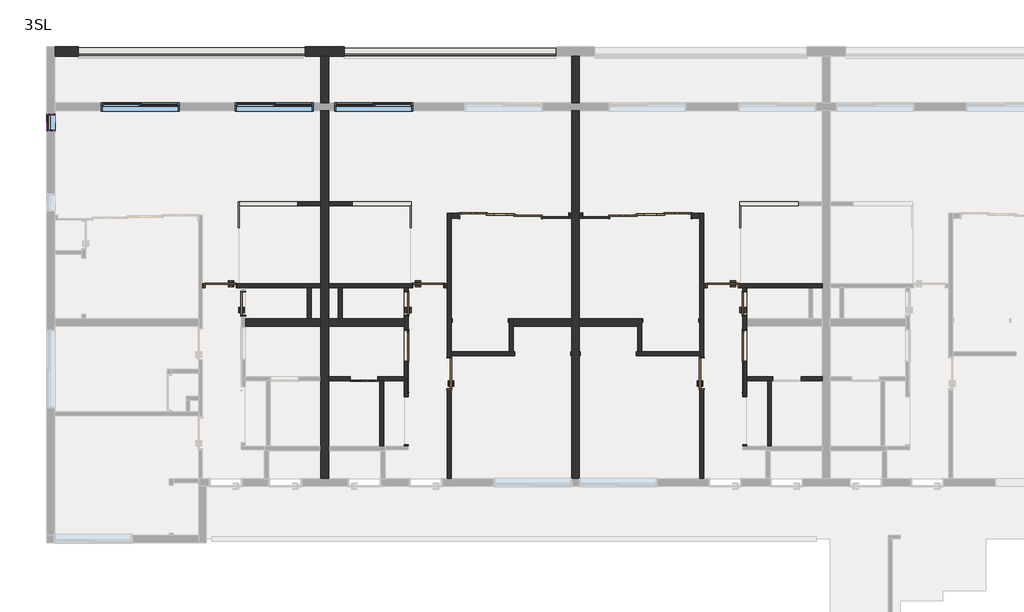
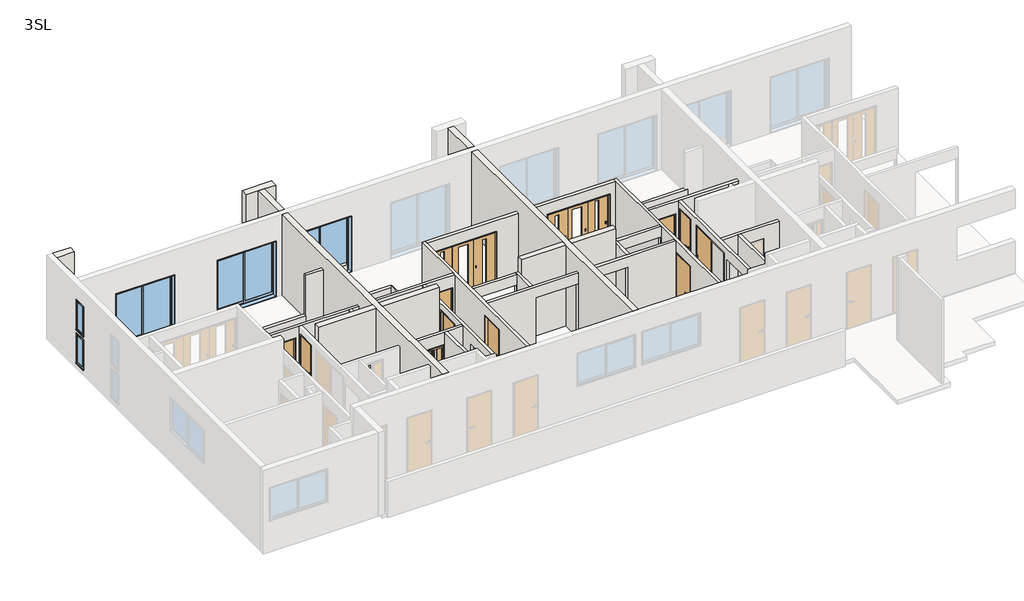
# One storey, part 2 of 3: 37 walls, 13 doors, 5 windows, 2 plates.
"""IFC4 building model written with IfcOpenShell, lengths in millimetres."""

from ifc_helpers import new_model, si_unit, frame, origin, place, context, project, spatial, polyline, outline, extrude, faceted_brep, transform, mapped, element, save
from components import door_a3db7c72, door_c7dcdbed, door_8f2de950, door_3b96e66a, door_aabc7979, door_3f60c47c, door_12b42705, door_31a51f76, door_d265da5f, system_panel_37aab131, system_panel_5692cc67, window_4c3e1407, window_a2a98c4b, window_ec430ee0, w0450_h1100_93ba837a

model = new_model("IFC4")

# Units and contexts
model_context = context("Model", 3, world=origin())
ifc_project = project(units=[si_unit("LENGTHUNIT", "METRE", prefix="MILLI")], contexts=[model_context])

# Site, building, storey
site = spatial("IfcSite", under=ifc_project)
building = spatial("IfcBuilding", under=site)
storey = spatial("IfcBuildingStorey", under=building, Name="3SL", Elevation=7000.0)

# Doors
placement = place(None, origin())
door_shape = door_a3db7c72(model_context)
element("IfcDoor", 1, ObjectType="木製_片開き_フラッシュ : WD-2 w600h2000", at=placement, inside=storey, context=model_context, shape_type="MappedRepresentation", body=[
    mapped(door_shape, transform((-5645.6194095, 3696.254513, 7210.0), x_axis=(0.0, 1.0, 0.0), y_axis=(-1.0, 0.0, 0.0), z_axis=(0.0, 0.0, 1.0))),
])
element("IfcDoor", 2, ObjectType="木製_片開き_フラッシュ : WD-2 w600h2000", at=placement, inside=storey, context=model_context, shape_type="MappedRepresentation", body=[
    mapped(door_shape, transform((7254.3805905, 3696.254513, 7210.0), x_axis=(0.0, 1.0, 0.0), y_axis=(-1.0, 0.0, 0.0), z_axis=(0.0, 0.0, 1.0))),
])
door_2_shape = door_c7dcdbed(model_context)
element("IfcDoor", 3, ObjectType="木製_片開き_フラッシュ : WD-2 w600h2000", at=placement, inside=storey, context=model_context, shape_type="MappedRepresentation", body=[
    mapped(door_2_shape, transform((-1445.6194095, 3696.254513, 7210.0), x_axis=(0.0, 1.0, 0.0), y_axis=(-1.0, 0.0, 0.0), z_axis=(0.0, 0.0, 1.0))),
])
door_3_shape = door_8f2de950(model_context)
element("IfcDoor", 4, ObjectType="木製_片開き_フラッシュ : WD-1\u3000w800h2000", at=placement, inside=storey, context=model_context, shape_type="MappedRepresentation", body=[
    mapped(door_3_shape, transform((-6225.6194095, 4160.2598658, 7060.0), x_axis=(-1.0, 0.0, 0.0), y_axis=(0.0, -1.0, 0.0), z_axis=(0.0, 0.0, 1.0))),
])
element("IfcDoor", 5, ObjectType="木製_片開き_フラッシュ : WD-1\u3000w800h2000", at=placement, inside=storey, context=model_context, shape_type="MappedRepresentation", body=[
    mapped(door_3_shape, transform((-345.6194095, 1900.2598658, 7060.0), x_axis=(0.0, 1.0, 0.0), y_axis=(-1.0, 0.0, 0.0), z_axis=(0.0, 0.0, 1.0))),
])
element("IfcDoor", 6, ObjectType="木製_片開き_フラッシュ : WD-1\u3000w800h2000", at=placement, inside=storey, context=model_context, shape_type="MappedRepresentation", body=[
    mapped(door_3_shape, transform((6694.3805905, 4160.2598658, 7000.0), x_axis=(-1.0, 0.0, 0.0), y_axis=(0.0, -1.0, 0.0), z_axis=(0.0, 0.0, 1.0))),
])
door_4_shape = door_3b96e66a(model_context)
element("IfcDoor", 7, ObjectType="木製_片開き_フラッシュ : WD-1\u3000w800h2000", at=placement, inside=storey, context=model_context, shape_type="MappedRepresentation", body=[
    mapped(door_4_shape, transform((-885.6194095, 4160.2598658, 7000.0), x_axis=(1.0, 0.0, 0.0), y_axis=(0.0, 1.0, 0.0), z_axis=(0.0, 0.0, 1.0))),
])
element("IfcDoor", 8, ObjectType="木製_片開き_フラッシュ : WD-1\u3000w800h2000", at=placement, inside=storey, context=model_context, shape_type="MappedRepresentation", body=[
    mapped(door_4_shape, transform((6154.3805905, 1900.2598658, 7060.0), x_axis=(0.0, 1.0, 0.0), y_axis=(-1.0, 0.0, 0.0), z_axis=(0.0, 0.0, 1.0))),
])
door_5_shape = door_aabc7979(model_context)
element("IfcDoor", 9, ObjectType="木製_折戸2枚_フラッシュ(UB) : UB-1 w600h2000", at=placement, inside=storey, context=model_context, shape_type="MappedRepresentation", body=[
    mapped(door_5_shape, transform((-2535.6194095, 1760.2598658, 7000.0), x_axis=(-1.0, 0.0, 0.0), y_axis=(0.0, -1.0, 0.0), z_axis=(0.0, 0.0, 1.0))),
])
door_6_shape = door_3f60c47c(model_context)
element("IfcDoor", 10, ObjectType="木製_片引き_フラッシュ : WD-4 w800h2000", at=placement, inside=storey, context=model_context, shape_type="MappedRepresentation", body=[
    mapped(door_6_shape, transform((-1445.6194095, 2610.719009, 7210.0), x_axis=(0.0, -1.0, 0.0), y_axis=(1.0, 0.0, 0.0), z_axis=(0.0, 0.0, 1.0))),
])
door_7_shape = door_12b42705(model_context)
element("IfcDoor", 11, ObjectType="木製_片引き_フラッシュ : WD-4 w800h2000", at=placement, inside=storey, context=model_context, shape_type="MappedRepresentation", body=[
    mapped(door_7_shape, transform((7254.3805905, 2610.719009, 7210.0), x_axis=(0.0, -1.0, 0.0), y_axis=(1.0, 0.0, 0.0), z_axis=(0.0, 0.0, 1.0))),
])
door_8_shape = door_31a51f76(model_context)
element("IfcDoor", 12, ObjectType="木製_片引き3枚_フラッシュ2 : WD-9 w2100h2000", at=placement, inside=storey, context=model_context, shape_type="MappedRepresentation", body=[
    mapped(door_8_shape, transform((979.9160944, 5960.2598658, 7060.0), x_axis=(1.0, 0.0, 0.0), y_axis=(0.0, 1.0, 0.0), z_axis=(0.0, 0.0, 1.0))),
])
door_9_shape = door_d265da5f(model_context)
element("IfcDoor", 13, ObjectType="木製_片引き3枚_フラッシュ2 : WD-9 w2100h2000", at=placement, inside=storey, context=model_context, shape_type="MappedRepresentation", body=[
    mapped(door_9_shape, transform((4828.8450865, 5960.2598658, 7060.0), x_axis=(-1.0, 0.0, 0.0), y_axis=(0.0, -1.0, 0.0), z_axis=(0.0, 0.0, 1.0))),
])

# Plates
system_panel_shape = system_panel_37aab131(model_context)
element("IfcPlate", 14, ObjectType="システム パネル : System Panel", at=placement, inside=storey, context=model_context, shape_type="MappedRepresentation", body=[
    mapped(system_panel_shape, transform((-320.6194095, 10097.7598658, 7000.0), x_axis=(-1.0, 0.0, 0.0), y_axis=(0.0, -1.0, 0.0), z_axis=(0.0, 0.0, 1.0))),
])
system_panel_2_shape = system_panel_5692cc67(model_context)
element("IfcPlate", 15, ObjectType="システム パネル : System Panel", at=placement, inside=storey, context=model_context, shape_type="MappedRepresentation", body=[
    mapped(system_panel_2_shape, transform((-6970.6194095, 10097.7598658, 7000.0), x_axis=(1.0, 0.0, 0.0), y_axis=(0.0, 1.0, 0.0), z_axis=(0.0, 0.0, 1.0))),
])

# Walls
element("IfcWall", 16, ObjectType="(F)30", at=placement, inside=storey, context=model_context, shape_type="Brep", body=[
    faceted_brep([(-5775.1194095, 6315.254513, 7113.4303939), (-5775.1194095, 5645.254513, 7113.4303939), (-5775.1194095, 5645.254513, 8060.0), (-5775.1194095, 6315.254513, 8060.0), (-5745.1194095, 6315.254513, 7113.4303939), (-5745.1194095, 6315.254513, 8060.0), (-5745.1194095, 6215.254513, 8060.0), (-5745.1194095, 5645.254513, 8060.0), (-5745.1194095, 5645.254513, 7113.4303939)], [[[0, 1, 2, 3]], [[4, 5, 6, 7, 8]], [[1, 0, 4, 8]], [[2, 1, 8, 7]], [[3, 2, 7, 6, 5]], [[0, 3, 5, 4]]]),
])
element("IfcWall", 17, ObjectType="(F)30", at=placement, inside=storey, context=model_context, shape_type="Brep", body=[
    faceted_brep([(-1346.1194095, 6215.254513, 7060.0), (-1346.1194095, 5645.254513, 7060.0), (-1346.1194095, 5645.254513, 8120.0), (-1346.1194095, 6215.254513, 8120.0), (-1316.1194095, 6215.254513, 7060.0), (-1316.1194095, 6215.254513, 8060.0), (-1316.1194095, 6215.254513, 8120.0), (-1316.1194095, 5645.254513, 8120.0), (-1316.1194095, 5645.254513, 7060.0)], [[[0, 1, 2, 3]], [[4, 5, 6, 7, 8]], [[1, 0, 4, 8]], [[2, 1, 8, 7]], [[3, 2, 7, 6]], [[0, 3, 6, 5, 4]]]),
])
element("IfcWall", 18, ObjectType="(F)30", at=placement, inside=storey, context=model_context, shape_type="Brep", body=[
    faceted_brep([(7124.8805905, 6215.254513, 7060.0), (7124.8805905, 5645.254513, 7060.0), (7124.8805905, 5645.254513, 8120.0), (7124.8805905, 6215.254513, 8120.0), (7124.8805905, 6215.254513, 8060.0), (7154.8805905, 6215.254513, 7060.0), (7154.8805905, 6215.254513, 8120.0), (7154.8805905, 5645.254513, 8120.0), (7154.8805905, 5645.254513, 7060.0)], [[[0, 1, 2, 3, 4]], [[5, 6, 7, 8]], [[1, 0, 5, 8]], [[2, 1, 8, 7]], [[3, 2, 7, 6]], [[0, 4, 3, 6, 5]]]),
])
element("IfcWall", 19, ObjectType="(L)100", at=placement, inside=storey, context=model_context, shape_type="Brep", body=[
    faceted_brep([(-4245.6194095, 6315.254513, 7000.0), (-5745.1194095, 6315.254513, 7000.0), (-5745.1194095, 6315.254513, 7113.4303939), (-5745.1194095, 6315.254513, 8060.0), (-4245.6194095, 6315.254513, 8060.0), (-4245.6194095, 6315.254513, 7100.0), (-4245.6194095, 6215.254513, 7000.0), (-4245.6194095, 6215.254513, 7100.0), (-4245.6194095, 6215.254513, 8060.0), (-5745.1194095, 6215.254513, 8060.0), (-5745.1194095, 6215.254513, 7000.0)], [[[0, 1, 2, 3, 4, 5]], [[6, 7, 8, 9, 10]], [[1, 0, 6, 10]], [[4, 3, 9, 8]], [[0, 5, 4, 8, 7, 6]], [[3, 2, 1, 10, 9]]]),
])
element("IfcWall", 20, ObjectType="(L)100", at=placement, inside=storey, context=model_context, shape_type="SweptSolid", body=[
    extrude(outline(polyline([(-3995.6194095, 3310.2598658), (-3995.6194095, 4110.2598658), (-3895.6194095, 4110.2598658), (-3895.6194095, 3310.2598658), (-3995.6194095, 3310.2598658)])), frame((0.0, 0.0, 7000.0), z_axis=(0.0, 0.0, 1.0), x_axis=(1.0, 0.0, 0.0)), (0.0, 0.0, 1.0), 2460.0),
])
element("IfcWall", 21, ObjectType="(L)100", at=placement, inside=storey, context=model_context, shape_type="Brep", body=[
    faceted_brep([(-3645.6194095, 4210.2598658, 7060.0), (-5805.6194095, 4210.2598658, 7060.0), (-5805.6194095, 4210.2598658, 9080.0), (-6645.6194095, 4210.2598658, 9080.0), (-6645.6194095, 4210.2598658, 7060.0), (-6695.6194095, 4210.2598658, 7060.0), (-6695.6194095, 4210.2598658, 9460.0), (-3645.6194095, 4210.2598658, 9460.0), (-5805.6194095, 4110.2598658, 9080.0), (-5805.6194095, 4110.2598658, 7060.0), (-5695.6194095, 4110.2598658, 7060.0), (-5595.6194095, 4110.2598658, 7060.0), (-3645.6194095, 4110.2598658, 7060.0), (-3645.6194095, 4110.2598658, 9460.0), (-3895.6194095, 4110.2598658, 9460.0), (-3995.6194095, 4110.2598658, 9460.0), (-5595.6194095, 4110.2598658, 9460.0), (-5695.6194095, 4110.2598658, 9460.0), (-6695.6194095, 4110.2598658, 9460.0), (-6695.6194095, 4110.2598658, 7060.0), (-6645.6194095, 4110.2598658, 7060.0), (-6645.6194095, 4110.2598658, 9080.0)], [[[0, 1, 2, 3, 4, 5, 6, 7]], [[8, 9, 10, 11, 12, 13, 14, 15, 16, 17, 18, 19, 20, 21]], [[12, 11, 10, 9, 1, 0]], [[20, 19, 5, 4]], [[7, 6, 18, 17, 16, 15, 14, 13]], [[0, 7, 13, 12]], [[6, 5, 19, 18]], [[4, 3, 21, 20]], [[2, 1, 9, 8]], [[3, 2, 8, 21]]]),
])
element("IfcWall", 22, ObjectType="(L)100", at=placement, inside=storey, context=model_context, shape_type="Brep", body=[
    faceted_brep([(-395.6194095, 1480.2598658, 9080.0), (-395.6194095, 1480.2598658, 7060.0), (-395.6194095, -809.7401342, 7060.0), (-395.6194095, -809.7401342, 9460.0), (-395.6194095, 4110.2598658, 9460.0), (-395.6194095, 4210.2598658, 9460.0), (-395.6194095, 6022.7598658, 9460.0), (-395.6194095, 6022.7598658, 7060.0), (-395.6194095, 2320.2598658, 7060.0), (-395.6194095, 2320.2598658, 9080.0), (-295.6194095, -809.7401342, 7060.0), (-295.6194095, 1480.2598658, 7060.0), (-295.6194095, 1480.2598658, 9080.0), (-295.6194095, 2320.2598658, 9080.0), (-295.6194095, 2320.2598658, 7060.0), (-295.6194095, 2360.2598658, 7060.0), (-295.6194095, 2460.2598658, 7060.0), (-295.6194095, 5897.7598658, 7060.0), (-295.6194095, 6022.7598658, 7060.0), (-295.6194095, 6022.7598658, 9460.0), (-295.6194095, 5897.7598658, 9460.0), (-295.6194095, 3310.2598658, 9460.0), (-295.6194095, 3210.2598658, 9460.0), (-295.6194095, 2460.2598658, 9460.0), (-295.6194095, 2360.2598658, 9460.0), (-295.6194095, -809.7401342, 9460.0)], [[[0, 1, 2, 3, 4, 5, 6, 7, 8, 9]], [[10, 11, 12, 13, 14, 15, 16, 17, 18, 19, 20, 21, 22, 23, 24, 25]], [[2, 1, 11, 10]], [[8, 7, 18, 17, 16, 15, 14]], [[6, 5, 4, 3, 25, 24, 23, 22, 21, 20, 19]], [[7, 6, 19, 18]], [[3, 2, 10, 25]], [[14, 13, 9, 8]], [[12, 11, 1, 0]], [[13, 12, 0, 9]]]),
])
element("IfcWall", 23, ObjectType="(L)100", at=placement, inside=storey, context=model_context, shape_type="Brep", body=[
    faceted_brep([(2804.3805905, 2460.2598658, 7060.0), (2784.3805905, 2460.2598658, 7060.0), (2784.3805905, 2460.2598658, 9080.0), (1344.3805905, 2460.2598658, 9080.0), (1344.3805905, 2460.2598658, 7060.0), (-295.6194095, 2460.2598658, 7060.0), (-295.6194095, 2460.2598658, 9460.0), (1204.3805905, 2460.2598658, 9460.0), (1304.3805905, 2460.2598658, 9460.0), (2804.3805905, 2460.2598658, 9460.0), (2784.3805905, 2360.2598658, 9080.0), (2784.3805905, 2360.2598658, 7060.0), (2804.3805905, 2360.2598658, 7060.0), (2804.3805905, 2360.2598658, 9460.0), (-295.6194095, 2360.2598658, 9460.0), (-295.6194095, 2360.2598658, 7060.0), (1344.3805905, 2360.2598658, 7060.0), (1344.3805905, 2360.2598658, 9080.0)], [[[0, 1, 2, 3, 4, 5, 6, 7, 8, 9]], [[10, 11, 12, 13, 14, 15, 16, 17]], [[12, 11, 1, 0]], [[16, 15, 5, 4]], [[9, 8, 7, 6, 14, 13]], [[0, 9, 13, 12]], [[6, 5, 15, 14]], [[4, 3, 17, 16]], [[2, 1, 11, 10]], [[3, 2, 10, 17]]]),
])
element("IfcWall", 24, ObjectType="(L)100", at=placement, inside=storey, context=model_context, shape_type="Brep", body=[
    faceted_brep([(1204.3805905, 3310.2598658, 7000.0), (1204.3805905, 3210.2598658, 7000.0), (1204.3805905, 2460.2598658, 7000.0), (1204.3805905, 2460.2598658, 9460.0), (1204.3805905, 3210.2598658, 9460.0), (1204.3805905, 3310.2598658, 9460.0), (1304.3805905, 3310.2598658, 7000.0), (1304.3805905, 3310.2598658, 9460.0), (1304.3805905, 2460.2598658, 9460.0), (1304.3805905, 2460.2598658, 7000.0), (1304.3805905, 3110.2598658, 7000.0)], [[[0, 1, 2, 3, 4, 5]], [[6, 7, 8, 9, 10]], [[2, 1, 0, 6, 10, 9]], [[5, 4, 3, 8, 7]], [[0, 5, 7, 6]], [[3, 2, 9, 8]]]),
])
element("IfcWall", 25, ObjectType="(L)100", at=placement, inside=storey, context=model_context, shape_type="Brep", body=[
    faceted_brep([(-1395.6194095, 4110.2598658, 9460.0), (-1395.6194095, 30.2598658, 9460.0), (-1395.6194095, 30.2598658, 7060.0), (-1395.6194095, 60.2598658, 7060.0), (-1395.6194095, 60.2598658, 9080.0), (-1395.6194095, 1300.2598658, 9080.0), (-1395.6194095, 1300.2598658, 7060.0), (-1395.6194095, 4110.2598658, 7060.0), (-1395.6194095, 1396.254513, 9230.0), (-1395.6194095, 3036.254513, 9230.0), (-1395.6194095, 3036.254513, 7210.0), (-1395.6194095, 1396.254513, 7210.0), (-1395.6194095, 4016.254513, 9230.0), (-1395.6194095, 4016.254513, 7210.0), (-1395.6194095, 3376.254513, 7210.0), (-1395.6194095, 3376.254513, 9230.0), (-1495.6194095, 30.2598658, 9460.0), (-1495.6194095, 1710.2598658, 9460.0), (-1495.6194095, 1810.2598658, 9460.0), (-1495.6194095, 4110.2598658, 9460.0), (-1495.6194095, 4110.2598658, 7060.0), (-1495.6194095, 1300.2598658, 7060.0), (-1495.6194095, 1300.2598658, 9080.0), (-1495.6194095, 60.2598658, 9080.0), (-1495.6194095, 60.2598658, 7060.0), (-1495.6194095, 30.2598658, 7060.0), (-1495.6194095, 3036.254513, 9230.0), (-1495.6194095, 2196.254513, 9230.0), (-1495.6194095, 2196.254513, 7210.0), (-1495.6194095, 3036.254513, 7210.0), (-1495.6194095, 4016.254513, 7210.0), (-1495.6194095, 4016.254513, 9230.0), (-1495.6194095, 3376.254513, 9230.0), (-1495.6194095, 3376.254513, 7210.0), (-1425.6194095, 1396.254513, 9230.0), (-1425.6194095, 2196.254513, 9230.0), (-1425.6194095, 2196.254513, 7210.0), (-1425.6194095, 1396.254513, 7210.0)], [[[0, 1, 2, 3, 4, 5, 6, 7], [8, 9, 10, 11], [12, 13, 14, 15]], [[16, 17, 18, 19, 20, 21, 22, 23, 24, 25], [26, 27, 28, 29], [30, 31, 32, 33]], [[20, 7, 6, 21]], [[2, 25, 24, 3]], [[1, 0, 19, 18, 17, 16]], [[0, 7, 20, 19]], [[2, 1, 16, 25]], [[5, 22, 21, 6]], [[23, 4, 3, 24]], [[22, 5, 4, 23]], [[34, 35, 27, 26, 9, 8]], [[9, 26, 29, 10]], [[36, 37, 11, 10, 29, 28]], [[35, 36, 28, 27]], [[35, 34, 37, 36]], [[37, 34, 8, 11]], [[12, 31, 30, 13]], [[13, 30, 33, 14]], [[14, 33, 32, 15]], [[31, 12, 15, 32]]]),
])
element("IfcWall", 26, ObjectType="(L)100", at=placement, inside=storey, context=model_context, shape_type="SweptSolid", body=[
    extrude(outline(polyline([(-3445.6194095, 6315.254513), (-2845.6194095, 6315.254513), (-2845.6194095, 6215.254513), (-3445.6194095, 6215.254513), (-3445.6194095, 6315.254513)])), frame((0.0, 0.0, 7000.0), z_axis=(0.0, 0.0, 1.0), x_axis=(1.0, 0.0, 0.0)), (0.0, 0.0, 1.0), 2400.0),
])
element("IfcWall", 27, ObjectType="(L)100", at=placement, inside=storey, context=model_context, shape_type="Brep", body=[
    faceted_brep([(-2920.6194095, 6215.254513, 7060.0), (-1346.1194095, 6215.254513, 7060.0), (-1316.1194095, 6215.254513, 7060.0), (-1316.1194095, 6215.254513, 8060.0), (-2920.6194095, 6215.254513, 8060.0), (-2920.6194095, 6315.254513, 7060.0), (-2920.6194095, 6315.254513, 8060.0), (-1316.1194095, 6315.254513, 8060.0), (-1316.1194095, 6315.254513, 7060.0)], [[[0, 1, 2, 3, 4]], [[5, 6, 7, 8]], [[2, 1, 0, 5, 8]], [[4, 3, 7, 6]], [[0, 4, 6, 5]], [[3, 2, 8, 7]]]),
])
element("IfcWall", 28, ObjectType="(L)100", at=placement, inside=storey, context=model_context, shape_type="SweptSolid", body=[
    extrude(outline(polyline([(-3195.6194095, 3310.2598658), (-3195.6194095, 4110.2598658), (-3095.6194095, 4110.2598658), (-3095.6194095, 3310.2598658), (-3195.6194095, 3310.2598658)])), frame((0.0, 0.0, 7000.0), z_axis=(0.0, 0.0, 1.0), x_axis=(1.0, 0.0, 0.0)), (0.0, 0.0, 1.0), 2460.0),
])
element("IfcWall", 29, ObjectType="(L)100", at=placement, inside=storey, context=model_context, shape_type="Brep", body=[
    faceted_brep([(-2165.6194095, 1710.2598658, 9020.0), (-2165.6194095, 1710.2598658, 7000.0), (-2135.6194095, 1710.2598658, 7000.0), (-2035.6194095, 1710.2598658, 7000.0), (-1495.6194095, 1710.2598658, 7000.0), (-1495.6194095, 1710.2598658, 9460.0), (-2035.6194095, 1710.2598658, 9460.0), (-2135.6194095, 1710.2598658, 9460.0), (-3445.6194095, 1710.2598658, 9460.0), (-3445.6194095, 1710.2598658, 7000.0), (-2905.6194095, 1710.2598658, 7000.0), (-2905.6194095, 1710.2598658, 9020.0), (-1495.6194095, 1810.2598658, 7000.0), (-2165.6194095, 1810.2598658, 7000.0), (-2165.6194095, 1810.2598658, 9020.0), (-2905.6194095, 1810.2598658, 9020.0), (-2905.6194095, 1810.2598658, 7000.0), (-3445.6194095, 1810.2598658, 7000.0), (-3445.6194095, 1810.2598658, 9460.0), (-1495.6194095, 1810.2598658, 9460.0)], [[[0, 1, 2, 3, 4, 5, 6, 7, 8, 9, 10, 11]], [[12, 13, 14, 15, 16, 17, 18, 19]], [[4, 3, 2, 1, 13, 12]], [[10, 9, 17, 16]], [[8, 7, 6, 5, 19, 18]], [[9, 8, 18, 17]], [[5, 4, 12, 19]], [[16, 15, 11, 10]], [[14, 13, 1, 0]], [[15, 14, 0, 11]]]),
])
element("IfcWall", 30, ObjectType="(L)100", at=placement, inside=storey, context=model_context, shape_type="Brep", body=[
    faceted_brep([(-3445.6194095, 4110.2598658, 7000.0), (-3195.6194095, 4110.2598658, 7000.0), (-3095.6194095, 4110.2598658, 7000.0), (-1305.6194095, 4110.2598658, 7000.0), (-1305.6194095, 4110.2598658, 9020.0), (-465.6194095, 4110.2598658, 9020.0), (-465.6194095, 4110.2598658, 7000.0), (-395.6194095, 4110.2598658, 7000.0), (-395.6194095, 4110.2598658, 9460.0), (-1395.6194095, 4110.2598658, 9460.0), (-1495.6194095, 4110.2598658, 9460.0), (-3095.6194095, 4110.2598658, 9460.0), (-3195.6194095, 4110.2598658, 9460.0), (-3445.6194095, 4110.2598658, 9460.0), (-1305.6194095, 4210.2598658, 9020.0), (-1305.6194095, 4210.2598658, 7000.0), (-3445.6194095, 4210.2598658, 7000.0), (-3445.6194095, 4210.2598658, 9460.0), (-395.6194095, 4210.2598658, 9460.0), (-395.6194095, 4210.2598658, 7000.0), (-465.6194095, 4210.2598658, 7000.0), (-465.6194095, 4210.2598658, 9020.0)], [[[0, 1, 2, 3, 4, 5, 6, 7, 8, 9, 10, 11, 12, 13]], [[14, 15, 16, 17, 18, 19, 20, 21]], [[16, 15, 3, 2, 1, 0]], [[20, 19, 7, 6]], [[13, 12, 11, 10, 9, 8, 18, 17]], [[0, 13, 17, 16]], [[8, 7, 19, 18]], [[6, 5, 21, 20]], [[4, 3, 15, 14]], [[5, 4, 14, 21]]]),
])
element("IfcWall", 31, ObjectType="(L)100", at=placement, inside=storey, context=model_context, shape_type="Brep", body=[
    faceted_brep([(-4245.6194095, 6215.254513, 7100.0), (-3645.6194095, 6215.254513, 7100.0), (-3645.6194095, 6215.254513, 9500.0), (-4245.6194095, 6215.254513, 9500.0), (-4245.6194095, 6215.254513, 8060.0), (-4245.6194095, 6315.254513, 7100.0), (-4245.6194095, 6315.254513, 8060.0), (-4245.6194095, 6315.254513, 9500.0), (-3645.6194095, 6315.254513, 9500.0), (-3645.6194095, 6315.254513, 7100.0)], [[[0, 1, 2, 3, 4]], [[5, 6, 7, 8, 9]], [[1, 0, 5, 9]], [[3, 2, 8, 7]], [[0, 4, 3, 7, 6, 5]], [[2, 1, 9, 8]]]),
])
element("IfcWall", 32, ObjectType="(L)100", at=placement, inside=storey, context=model_context, shape_type="SweptSolid", body=[
    extrude(outline(polyline([(7000.0, -295.6194095), (7000.0, 1204.3805905), (9460.0, 1204.3805905), (9460.0, -295.6194095), (7000.0, -295.6194095)]), holes=[polyline([(7060.0, 1174.3805905), (7060.0, -265.6194095), (9080.0, -265.6194095), (9080.0, 1174.3805905), (7060.0, 1174.3805905)])]), frame((0.0, 3210.2598658, 0.0), z_axis=(0.0, 1.0, 0.0), x_axis=(0.0, 0.0, 1.0)), (0.0, 0.0, 1.0), 100.0),
])
element("IfcWall", 33, ObjectType="(L)100", at=placement, inside=storey, context=model_context, shape_type="SweptSolid", body=[
    extrude(outline(polyline([(-2135.6194095, 30.2598658), (-2135.6194095, 1710.2598658), (-2035.6194095, 1710.2598658), (-2035.6194095, 30.2598658), (-2135.6194095, 30.2598658)])), frame((0.0, 0.0, 7000.0), z_axis=(0.0, 0.0, 1.0), x_axis=(1.0, 0.0, 0.0)), (0.0, 0.0, 1.0), 2460.0),
])
element("IfcWall", 34, ObjectType="(L)100", at=placement, inside=storey, context=model_context, shape_type="Brep", body=[
    faceted_brep([(6104.3805905, 1480.2598658, 9080.0), (6104.3805905, 1480.2598658, 7060.0), (6104.3805905, -809.7401342, 7060.0), (6104.3805905, -809.7401342, 9460.0), (6104.3805905, 2360.2598658, 9460.0), (6104.3805905, 2460.2598658, 9460.0), (6104.3805905, 3210.2598658, 9460.0), (6104.3805905, 3310.2598658, 9460.0), (6104.3805905, 5897.7598658, 9460.0), (6104.3805905, 6022.7598658, 9460.0), (6104.3805905, 6022.7598658, 7060.0), (6104.3805905, 5897.7598658, 7060.0), (6104.3805905, 2460.2598658, 7060.0), (6104.3805905, 2360.2598658, 7060.0), (6104.3805905, 2320.2598658, 7060.0), (6104.3805905, 2320.2598658, 9080.0), (6204.3805905, -809.7401342, 7060.0), (6204.3805905, 1480.2598658, 7060.0), (6204.3805905, 1480.2598658, 9080.0), (6204.3805905, 2320.2598658, 9080.0), (6204.3805905, 2320.2598658, 7060.0), (6204.3805905, 6022.7598658, 7060.0), (6204.3805905, 6022.7598658, 9460.0), (6204.3805905, 4210.2598658, 9460.0), (6204.3805905, 4110.2598658, 9460.0), (6204.3805905, -809.7401342, 9460.0)], [[[0, 1, 2, 3, 4, 5, 6, 7, 8, 9, 10, 11, 12, 13, 14, 15]], [[16, 17, 18, 19, 20, 21, 22, 23, 24, 25]], [[2, 1, 17, 16]], [[14, 13, 12, 11, 10, 21, 20]], [[9, 8, 7, 6, 5, 4, 3, 25, 24, 23, 22]], [[10, 9, 22, 21]], [[3, 2, 16, 25]], [[20, 19, 15, 14]], [[18, 17, 1, 0]], [[19, 18, 0, 15]]]),
])
element("IfcWall", 35, ObjectType="(L)100", at=placement, inside=storey, context=model_context, shape_type="Brep", body=[
    faceted_brep([(3004.3805905, 2360.2598658, 7060.0), (3024.3805905, 2360.2598658, 7060.0), (3024.3805905, 2360.2598658, 9080.0), (4464.3805905, 2360.2598658, 9080.0), (4464.3805905, 2360.2598658, 7060.0), (6104.3805905, 2360.2598658, 7060.0), (6104.3805905, 2360.2598658, 9460.0), (3004.3805905, 2360.2598658, 9460.0), (3024.3805905, 2460.2598658, 9080.0), (3024.3805905, 2460.2598658, 7060.0), (3004.3805905, 2460.2598658, 7060.0), (3004.3805905, 2460.2598658, 9460.0), (4504.3805905, 2460.2598658, 9460.0), (4604.3805905, 2460.2598658, 9460.0), (6104.3805905, 2460.2598658, 9460.0), (6104.3805905, 2460.2598658, 7060.0), (4464.3805905, 2460.2598658, 7060.0), (4464.3805905, 2460.2598658, 9080.0)], [[[0, 1, 2, 3, 4, 5, 6, 7]], [[8, 9, 10, 11, 12, 13, 14, 15, 16, 17]], [[10, 9, 1, 0]], [[16, 15, 5, 4]], [[7, 6, 14, 13, 12, 11]], [[0, 7, 11, 10]], [[6, 5, 15, 14]], [[4, 3, 17, 16]], [[2, 1, 9, 8]], [[3, 2, 8, 17]]]),
])
element("IfcWall", 36, ObjectType="(L)100", at=placement, inside=storey, context=model_context, shape_type="Brep", body=[
    faceted_brep([(4504.3805905, 3310.2598658, 7000.0), (4504.3805905, 3110.2598658, 7000.0), (4504.3805905, 2460.2598658, 7000.0), (4504.3805905, 2460.2598658, 9460.0), (4504.3805905, 3310.2598658, 9460.0), (4604.3805905, 3310.2598658, 7000.0), (4604.3805905, 3310.2598658, 9460.0), (4604.3805905, 3210.2598658, 9460.0), (4604.3805905, 2460.2598658, 9460.0), (4604.3805905, 2460.2598658, 7000.0), (4604.3805905, 3210.2598658, 7000.0)], [[[0, 1, 2, 3, 4]], [[5, 6, 7, 8, 9, 10]], [[2, 1, 0, 5, 10, 9]], [[4, 3, 8, 7, 6]], [[0, 4, 6, 5]], [[3, 2, 9, 8]]]),
])
element("IfcWall", 37, ObjectType="(L)100", at=placement, inside=storey, context=model_context, shape_type="Brep", body=[
    faceted_brep([(7304.3805905, 4110.2598658, 9460.0), (7304.3805905, 1810.2598658, 9460.0), (7304.3805905, 1710.2598658, 9460.0), (7304.3805905, 30.2598658, 9460.0), (7304.3805905, 30.2598658, 7060.0), (7304.3805905, 60.2598658, 7060.0), (7304.3805905, 60.2598658, 9080.0), (7304.3805905, 1300.2598658, 9080.0), (7304.3805905, 1300.2598658, 7060.0), (7304.3805905, 4110.2598658, 7060.0), (7304.3805905, 2196.254513, 9230.0), (7304.3805905, 3036.254513, 9230.0), (7304.3805905, 3036.254513, 7210.0), (7304.3805905, 2196.254513, 7210.0), (7304.3805905, 4016.254513, 9230.0), (7304.3805905, 4016.254513, 7210.0), (7304.3805905, 3376.254513, 7210.0), (7304.3805905, 3376.254513, 9230.0), (7204.3805905, 30.2598658, 9460.0), (7204.3805905, 4110.2598658, 9460.0), (7204.3805905, 4110.2598658, 7060.0), (7204.3805905, 1300.2598658, 7060.0), (7204.3805905, 1300.2598658, 9080.0), (7204.3805905, 60.2598658, 9080.0), (7204.3805905, 60.2598658, 7060.0), (7204.3805905, 30.2598658, 7060.0), (7204.3805905, 3036.254513, 9230.0), (7204.3805905, 1396.254513, 9230.0), (7204.3805905, 1396.254513, 7210.0), (7204.3805905, 3036.254513, 7210.0), (7204.3805905, 4016.254513, 7210.0), (7204.3805905, 4016.254513, 9230.0), (7204.3805905, 3376.254513, 9230.0), (7204.3805905, 3376.254513, 7210.0), (7234.3805905, 2196.254513, 9230.0), (7234.3805905, 1396.254513, 9230.0), (7234.3805905, 1396.254513, 7210.0), (7234.3805905, 2196.254513, 7210.0)], [[[0, 1, 2, 3, 4, 5, 6, 7, 8, 9], [10, 11, 12, 13], [14, 15, 16, 17]], [[18, 19, 20, 21, 22, 23, 24, 25], [26, 27, 28, 29], [30, 31, 32, 33]], [[20, 9, 8, 21]], [[4, 25, 24, 5]], [[3, 2, 1, 0, 19, 18]], [[0, 9, 20, 19]], [[4, 3, 18, 25]], [[7, 22, 21, 8]], [[23, 6, 5, 24]], [[22, 7, 6, 23]], [[34, 35, 27, 26, 11, 10]], [[11, 26, 29, 12]], [[36, 37, 13, 12, 29, 28]], [[37, 34, 10, 13]], [[35, 34, 37, 36]], [[35, 36, 28, 27]], [[14, 31, 30, 15]], [[15, 30, 33, 16]], [[16, 33, 32, 17]], [[31, 14, 17, 32]]]),
])
element("IfcWall", 38, ObjectType="(L)100", at=placement, inside=storey, context=model_context, shape_type="Brep", body=[
    faceted_brep([(8729.3805905, 6315.254513, 7060.0), (7124.8805905, 6315.254513, 7060.0), (7124.8805905, 6315.254513, 8060.0), (8729.3805905, 6315.254513, 8060.0), (8729.3805905, 6215.254513, 7060.0), (8729.3805905, 6215.254513, 8060.0), (7124.8805905, 6215.254513, 8060.0), (7124.8805905, 6215.254513, 7060.0), (7154.8805905, 6215.254513, 7060.0)], [[[0, 1, 2, 3]], [[4, 5, 6, 7, 8]], [[1, 0, 4, 8, 7]], [[3, 2, 6, 5]], [[0, 3, 5, 4]], [[2, 1, 7, 6]]]),
])
element("IfcWall", 39, ObjectType="(L)100", at=placement, inside=storey, context=model_context, shape_type="Brep", body=[
    faceted_brep([(7974.3805905, 1810.2598658, 9020.0), (7974.3805905, 1810.2598658, 7000.0), (7304.3805905, 1810.2598658, 7000.0), (7304.3805905, 1810.2598658, 9460.0), (9254.3805905, 1810.2598658, 9460.0), (9254.3805905, 1810.2598658, 7000.0), (8714.3805905, 1810.2598658, 7000.0), (8714.3805905, 1810.2598658, 9020.0), (7304.3805905, 1710.2598658, 7000.0), (7844.3805905, 1710.2598658, 7000.0), (7944.3805905, 1710.2598658, 7000.0), (7974.3805905, 1710.2598658, 7000.0), (7974.3805905, 1710.2598658, 9020.0), (8714.3805905, 1710.2598658, 9020.0), (8714.3805905, 1710.2598658, 7000.0), (9254.3805905, 1710.2598658, 7000.0), (9254.3805905, 1710.2598658, 9460.0), (7944.3805905, 1710.2598658, 9460.0), (7844.3805905, 1710.2598658, 9460.0), (7304.3805905, 1710.2598658, 9460.0)], [[[0, 1, 2, 3, 4, 5, 6, 7]], [[8, 9, 10, 11, 12, 13, 14, 15, 16, 17, 18, 19]], [[2, 1, 11, 10, 9, 8]], [[6, 5, 15, 14]], [[4, 3, 19, 18, 17, 16]], [[5, 4, 16, 15]], [[3, 2, 8, 19]], [[14, 13, 7, 6]], [[12, 11, 1, 0]], [[13, 12, 0, 7]]]),
])
element("IfcWall", 40, ObjectType="(L)100", at=placement, inside=storey, context=model_context, shape_type="Brep", body=[
    faceted_brep([(9254.3805905, 4210.2598658, 7000.0), (7114.3805905, 4210.2598658, 7000.0), (7114.3805905, 4210.2598658, 9020.0), (6274.3805905, 4210.2598658, 9020.0), (6274.3805905, 4210.2598658, 7000.0), (6204.3805905, 4210.2598658, 7000.0), (6204.3805905, 4210.2598658, 9460.0), (9254.3805905, 4210.2598658, 9460.0), (7114.3805905, 4110.2598658, 9020.0), (7114.3805905, 4110.2598658, 7000.0), (8904.3805905, 4110.2598658, 7000.0), (9004.3805905, 4110.2598658, 7000.0), (9254.3805905, 4110.2598658, 7000.0), (9254.3805905, 4110.2598658, 9460.0), (9004.3805905, 4110.2598658, 9460.0), (8904.3805905, 4110.2598658, 9460.0), (7304.3805905, 4110.2598658, 9460.0), (7204.3805905, 4110.2598658, 9460.0), (6204.3805905, 4110.2598658, 9460.0), (6204.3805905, 4110.2598658, 7000.0), (6274.3805905, 4110.2598658, 7000.0), (6274.3805905, 4110.2598658, 9020.0)], [[[0, 1, 2, 3, 4, 5, 6, 7]], [[8, 9, 10, 11, 12, 13, 14, 15, 16, 17, 18, 19, 20, 21]], [[12, 11, 10, 9, 1, 0]], [[20, 19, 5, 4]], [[7, 6, 18, 17, 16, 15, 14, 13]], [[0, 7, 13, 12]], [[6, 5, 19, 18]], [[4, 3, 21, 20]], [[2, 1, 9, 8]], [[3, 2, 8, 21]]]),
])
element("IfcWall", 41, ObjectType="(L)100", at=placement, inside=storey, context=model_context, shape_type="SweptSolid", body=[
    extrude(outline(polyline([(7000.0, 4604.3805905), (7000.0, 6104.3805905), (9460.0, 6104.3805905), (9460.0, 4604.3805905), (7000.0, 4604.3805905)]), holes=[polyline([(7060.0, 6074.3805905), (7060.0, 4634.3805905), (9080.0, 4634.3805905), (9080.0, 6074.3805905), (7060.0, 6074.3805905)])]), frame((0.0, 3210.2598658, 0.0), z_axis=(0.0, 1.0, 0.0), x_axis=(0.0, 0.0, 1.0)), (0.0, 0.0, 1.0), 100.0),
])
element("IfcWall", 42, ObjectType="(L)100", at=placement, inside=storey, context=model_context, shape_type="SweptSolid", body=[
    extrude(outline(polyline([(7844.3805905, 30.2598658), (7844.3805905, 1710.2598658), (7944.3805905, 1710.2598658), (7944.3805905, 30.2598658), (7844.3805905, 30.2598658)])), frame((0.0, 0.0, 7000.0), z_axis=(0.0, 0.0, 1.0), x_axis=(1.0, 0.0, 0.0)), (0.0, 0.0, 1.0), 2460.0),
])
element("IfcWall", 43, ObjectType="(L1)125", at=placement, inside=storey, context=model_context, shape_type="Brep", body=[
    faceted_brep([(2804.3805905, 5897.7598658, 9460.0), (-295.6194095, 5897.7598658, 9460.0), (-295.6194095, 5897.7598658, 7060.0), (-95.6194095, 5897.7598658, 7060.0), (-95.6194095, 5897.7598658, 9080.0), (2044.3805905, 5897.7598658, 9080.0), (2044.3805905, 5897.7598658, 7060.0), (2804.3805905, 5897.7598658, 7060.0), (-295.6194095, 6022.7598658, 9460.0), (2804.3805905, 6022.7598658, 9460.0), (2804.3805905, 6022.7598658, 7060.0), (2744.3805905, 6022.7598658, 7060.0), (2744.3805905, 6022.7598658, 9080.0), (-95.6194095, 6022.7598658, 9080.0), (-95.6194095, 6022.7598658, 7060.0), (-295.6194095, 6022.7598658, 7060.0), (2044.3805905, 5932.7598658, 7060.0), (2744.3805905, 5932.7598658, 7060.0), (2744.3805905, 5932.7598658, 9080.0), (2044.3805905, 5932.7598658, 9080.0)], [[[0, 1, 2, 3, 4, 5, 6, 7]], [[8, 9, 10, 11, 12, 13, 14, 15]], [[10, 7, 6, 16, 17, 11]], [[2, 15, 14, 3]], [[1, 0, 9, 8]], [[0, 7, 10, 9]], [[2, 1, 8, 15]], [[18, 19, 5, 4, 13, 12]], [[13, 4, 3, 14]], [[19, 16, 6, 5]], [[19, 18, 17, 16]], [[17, 18, 12, 11]]]),
])
element("IfcWall", 44, ObjectType="(L1)125", at=placement, inside=storey, context=model_context, shape_type="Brep", body=[
    faceted_brep([(3004.3805905, 6022.7598658, 9460.0), (6104.3805905, 6022.7598658, 9460.0), (6104.3805905, 6022.7598658, 7060.0), (5904.3805905, 6022.7598658, 7060.0), (5904.3805905, 6022.7598658, 9080.0), (3064.3805905, 6022.7598658, 9080.0), (3064.3805905, 6022.7598658, 7060.0), (3004.3805905, 6022.7598658, 7060.0), (6104.3805905, 5897.7598658, 9460.0), (3004.3805905, 5897.7598658, 9460.0), (3004.3805905, 5897.7598658, 7060.0), (3764.3805905, 5897.7598658, 7060.0), (3764.3805905, 5897.7598658, 9080.0), (5904.3805905, 5897.7598658, 9080.0), (5904.3805905, 5897.7598658, 7060.0), (6104.3805905, 5897.7598658, 7060.0), (3064.3805905, 5932.7598658, 7060.0), (3764.3805905, 5932.7598658, 7060.0), (3764.3805905, 5932.7598658, 9080.0), (3064.3805905, 5932.7598658, 9080.0)], [[[0, 1, 2, 3, 4, 5, 6, 7]], [[8, 9, 10, 11, 12, 13, 14, 15]], [[10, 7, 6, 16, 17, 11]], [[2, 15, 14, 3]], [[1, 0, 9, 8]], [[0, 7, 10, 9]], [[2, 1, 8, 15]], [[18, 19, 5, 4, 13, 12]], [[13, 4, 3, 14]], [[17, 18, 12, 11]], [[19, 18, 17, 16]], [[19, 16, 6, 5]]]),
])
element("IfcWall", 45, ObjectType="(R)200", at=placement, inside=storey, context=model_context, shape_type="Brep", body=[
    faceted_brep([(-3445.6194095, -809.7401342, 10000.0), (-3445.6194095, -809.7401342, 7000.0), (-3445.6194095, -89.7401342, 7000.0), (-3445.6194095, 30.2598658, 7000.0), (-3445.6194095, 1710.2598658, 7000.0), (-3445.6194095, 1810.2598658, 7000.0), (-3445.6194095, 3110.2598658, 7000.0), (-3445.6194095, 3310.2598658, 7000.0), (-3445.6194095, 4110.2598658, 7000.0), (-3445.6194095, 4210.2598658, 7000.0), (-3445.6194095, 6215.254513, 7000.0), (-3445.6194095, 6315.254513, 7000.0), (-3445.6194095, 8660.2598658, 7000.0), (-3445.6194095, 8660.2598658, 10000.0), (-3445.6194095, 3310.2598658, 10000.0), (-3445.6194095, 3110.2598658, 10000.0), (-3645.6194095, -809.7401342, 7000.0), (-3645.6194095, -809.7401342, 10000.0), (-3645.6194095, 3110.2598658, 10000.0), (-3645.6194095, 3310.2598658, 10000.0), (-3645.6194095, 8660.2598658, 10000.0), (-3645.6194095, 8660.2598658, 7000.0), (-3645.6194095, 3310.2598658, 7000.0), (-3645.6194095, 3110.2598658, 7000.0), (-3645.6194095, 30.2598658, 7000.0), (-3645.6194095, -89.7401342, 7000.0)], [[[0, 1, 2, 3, 4, 5, 6, 7, 8, 9, 10, 11, 12, 13, 14, 15]], [[16, 17, 18, 19, 20, 21, 22, 23, 24, 25]], [[1, 16, 25, 24, 23, 22, 21, 12, 11, 10, 9, 8, 7, 6, 5, 4, 3, 2]], [[17, 0, 15, 14, 13, 20, 19, 18]], [[1, 0, 17, 16]], [[13, 12, 21, 20]]]),
    faceted_brep([(-3445.6194095, 8860.2598658, 10000.0), (-3445.6194095, 8860.2598658, 7000.0), (-3445.6194095, 10059.9866207, 7000.0), (-3445.6194095, 10059.9866207, 10000.0), (-3645.6194095, 8860.2598658, 7000.0), (-3645.6194095, 8860.2598658, 10000.0), (-3645.6194095, 10059.9866207, 10000.0), (-3645.6194095, 10059.9866207, 7000.0)], [[[0, 1, 2, 3]], [[4, 5, 6, 7]], [[1, 4, 7, 2]], [[5, 0, 3, 6]], [[1, 0, 5, 4]], [[3, 2, 7, 6]]]),
])
element("IfcWall", 46, ObjectType="(R)200", at=placement, inside=storey, context=model_context, shape_type="Brep", body=[
    faceted_brep([(3004.3805905, -809.7401342, 10000.0), (3004.3805905, -809.7401342, 9320.0), (3004.3805905, -809.7401342, 8120.0), (3004.3805905, -809.7401342, 7000.0), (3004.3805905, 3110.2598658, 7000.0), (3004.3805905, 3310.2598658, 7000.0), (3004.3805905, 8660.2598658, 7000.0), (3004.3805905, 8660.2598658, 10000.0), (3004.3805905, 3310.2598658, 10000.0), (3004.3805905, 3110.2598658, 10000.0), (2804.3805905, -809.7401342, 7000.0), (2804.3805905, -809.7401342, 8120.0), (2804.3805905, -809.7401342, 9320.0), (2804.3805905, -809.7401342, 10000.0), (2804.3805905, 3110.2598658, 10000.0), (2804.3805905, 3310.2598658, 10000.0), (2804.3805905, 8660.2598658, 10000.0), (2804.3805905, 8660.2598658, 7000.0), (2804.3805905, 3310.2598658, 7000.0), (2804.3805905, 3110.2598658, 7000.0)], [[[0, 1, 2, 3, 4, 5, 6, 7, 8, 9]], [[10, 11, 12, 13, 14, 15, 16, 17, 18, 19]], [[3, 10, 19, 18, 17, 6, 5, 4]], [[13, 0, 9, 8, 7, 16, 15, 14]], [[3, 2, 1, 0, 13, 12, 11, 10]], [[7, 6, 17, 16]]]),
    faceted_brep([(3004.3805905, 8860.2598658, 10000.0), (3004.3805905, 8860.2598658, 7000.0), (3004.3805905, 10059.9866207, 7000.0), (3004.3805905, 10059.9866207, 10000.0), (2804.3805905, 8860.2598658, 7000.0), (2804.3805905, 8860.2598658, 10000.0), (2804.3805905, 10059.9866207, 10000.0), (2804.3805905, 10059.9866207, 7000.0)], [[[0, 1, 2, 3]], [[4, 5, 6, 7]], [[1, 4, 7, 2]], [[5, 0, 3, 6]], [[1, 0, 5, 4]], [[3, 2, 7, 6]]]),
])
element("IfcWall", 47, ObjectType="(R)200", at=placement, inside=storey, context=model_context, shape_type="Brep", body=[
    faceted_brep([(1304.3805905, 3110.2598658, 10000.0), (1304.3805905, 3110.2598658, 7000.0), (2804.3805905, 3110.2598658, 7000.0), (2804.3805905, 3110.2598658, 10000.0), (1304.3805905, 3310.2598658, 7000.0), (1304.3805905, 3310.2598658, 9460.0), (1304.3805905, 3310.2598658, 10000.0), (2804.3805905, 3310.2598658, 10000.0), (2804.3805905, 3310.2598658, 7000.0)], [[[0, 1, 2, 3]], [[4, 5, 6, 7, 8]], [[1, 4, 8, 2]], [[6, 0, 3, 7]], [[1, 0, 6, 5, 4]], [[3, 2, 8, 7]]]),
    faceted_brep([(4504.3805905, 3110.2598658, 7000.0), (4504.3805905, 3110.2598658, 10000.0), (3004.3805905, 3110.2598658, 10000.0), (3004.3805905, 3110.2598658, 7000.0), (4504.3805905, 3310.2598658, 10000.0), (4504.3805905, 3310.2598658, 9460.0), (4504.3805905, 3310.2598658, 7000.0), (3004.3805905, 3310.2598658, 7000.0), (3004.3805905, 3310.2598658, 10000.0)], [[[0, 1, 2, 3]], [[4, 5, 6, 7, 8]], [[6, 0, 3, 7]], [[1, 4, 8, 2]], [[1, 0, 6, 5, 4]], [[3, 2, 8, 7]]]),
])
element("IfcWall", 48, ObjectType="(R)200", at=placement, inside=storey, context=model_context, shape_type="Brep", body=[
    faceted_brep([(-1495.6194095, 3310.2598658, 10000.0), (-1495.6194095, 3310.2598658, 7000.0), (-3095.6194095, 3310.2598658, 7000.0), (-3195.6194095, 3310.2598658, 7000.0), (-3445.6194095, 3310.2598658, 7000.0), (-3445.6194095, 3310.2598658, 10000.0), (-1495.6194095, 3110.2598658, 7000.0), (-1495.6194095, 3110.2598658, 10000.0), (-3445.6194095, 3110.2598658, 10000.0), (-3445.6194095, 3110.2598658, 7000.0)], [[[0, 1, 2, 3, 4, 5]], [[6, 7, 8, 9]], [[1, 6, 9, 4, 3, 2]], [[7, 0, 5, 8]], [[1, 0, 7, 6]], [[5, 4, 9, 8]]]),
    faceted_brep([(-5595.6194095, 3310.2598658, 7000.0), (-5595.6194095, 3310.2598658, 10000.0), (-3645.6194095, 3310.2598658, 10000.0), (-3645.6194095, 3310.2598658, 7000.0), (-3895.6194095, 3310.2598658, 7000.0), (-3995.6194095, 3310.2598658, 7000.0), (-5595.6194095, 3110.2598658, 10000.0), (-5595.6194095, 3110.2598658, 7000.0), (-3645.6194095, 3110.2598658, 7000.0), (-3645.6194095, 3110.2598658, 10000.0)], [[[0, 1, 2, 3, 4, 5]], [[6, 7, 8, 9]], [[7, 0, 5, 4, 3, 8]], [[1, 6, 9, 2]], [[1, 0, 7, 6]], [[3, 2, 9, 8]]]),
])
element("IfcWall", 49, ObjectType="(R)200", at=placement, inside=storey, context=model_context, shape_type="SweptSolid", body=[
    extrude(outline(polyline([(-4045.6194095, 10084.9866207), (-9895.6194095, 10084.9866207), (-9895.6194095, 10284.9866207), (-4045.6194095, 10284.9866207), (-4045.6194095, 10084.9866207)])), frame((0.0, 0.0, 6250.0), z_axis=(0.0, 0.0, 1.0), x_axis=(1.0, 0.0, 0.0)), (0.0, 0.0, 1.0), 750.0),
])
element("IfcWall", 50, ObjectType="(R)200", at=placement, inside=storey, context=model_context, shape_type="SweptSolid", body=[
    extrude(outline(polyline([(2404.3805905, 10059.9866207), (-3045.6194095, 10059.9866207), (-3045.6194095, 10259.9866207), (2404.3805905, 10259.9866207), (2404.3805905, 10059.9866207)])), frame((0.0, 0.0, 6250.0), z_axis=(0.0, 0.0, 1.0), x_axis=(1.0, 0.0, 0.0)), (0.0, 0.0, 1.0), 750.0),
])
element("IfcWall", 51, ObjectType="(R)250", at=placement, inside=storey, context=model_context, shape_type="Brep", body=[
    faceted_brep([(-4045.6194095, 10059.9866207, 7000.0), (-3645.6194095, 10059.9866207, 7000.0), (-3445.6194095, 10059.9866207, 7000.0), (-3045.6194095, 10059.9866207, 7000.0), (-3045.6194095, 10059.9866207, 9250.0), (-3045.6194095, 10059.9866207, 10000.0), (-3445.6194095, 10059.9866207, 10000.0), (-3645.6194095, 10059.9866207, 10000.0), (-4045.6194095, 10059.9866207, 10000.0), (-4045.6194095, 10309.9866207, 7000.0), (-4045.6194095, 10309.9866207, 10000.0), (-3045.6194095, 10309.9866207, 10000.0), (-3045.6194095, 10309.9866207, 7000.0), (-3045.6194095, 10259.9866207, 10000.0), (-4045.6194095, 10284.9866207, 10000.0), (-4045.6194095, 10084.9866207, 10000.0)], [[[0, 1, 2, 3, 4, 5, 6, 7, 8]], [[9, 10, 11, 12]], [[3, 2, 1, 0, 9, 12]], [[5, 4, 3, 12, 11, 13]], [[8, 7, 6, 5, 13, 11, 10, 14, 15]], [[0, 8, 15, 14, 10, 9]]]),
])
element("IfcWall", 52, ObjectType="(R)250", at=placement, inside=storey, context=model_context, shape_type="Brep", body=[
    faceted_brep([(-10495.6194095, 10059.9866207, 7000.0), (-9895.6194095, 10059.9866207, 7000.0), (-9895.6194095, 10059.9866207, 10000.0), (-10495.6194095, 10059.9866207, 10000.0), (-10495.6194095, 10309.9866207, 7000.0), (-10495.6194095, 10309.9866207, 10000.0), (-9895.6194095, 10309.9866207, 10000.0), (-9895.6194095, 10309.9866207, 7000.0), (-9895.6194095, 10284.9866207, 10000.0), (-9895.6194095, 10084.9866207, 10000.0)], [[[0, 1, 2, 3]], [[4, 5, 6, 7]], [[1, 0, 4, 7]], [[2, 1, 7, 6, 8, 9]], [[3, 2, 9, 8, 6, 5]], [[0, 3, 5, 4]]]),
])

# Windows
window_shape = window_4c3e1407(model_context)
element("IfcWindow", 53, ObjectType="窓-開き-内付 : AW-1 w0450 h1100", at=placement, inside=storey, context=model_context, shape_type="MappedRepresentation", body=[
    mapped(window_shape, transform((-10595.6194095, 8355.2598658, 7180.0), x_axis=(0.0, 1.0, 0.0), y_axis=(-1.0, 0.0, 0.0), z_axis=(0.0, 0.0, 1.0))),
])
window_2_shape = window_a2a98c4b(model_context)
element("IfcWindow", 54, ObjectType="窓-引違掃出2枚-内付 : AW-3 w2000 h2000", at=placement, inside=storey, context=model_context, shape_type="MappedRepresentation", body=[
    mapped(window_2_shape, transform((-4845.6194095, 8760.2598658, 7120.0), x_axis=(1.0, 0.0, 0.0), y_axis=(0.0, 1.0, 0.0), z_axis=(0.0, 0.0, 1.0))),
])
element("IfcWindow", 55, ObjectType="窓-引違掃出2枚-内付 : AW-3 w2000 h2000", at=placement, inside=storey, context=model_context, shape_type="MappedRepresentation", body=[
    mapped(window_2_shape, transform((-8294.6785744, 8760.2598658, 7120.0), x_axis=(1.0, 0.0, 0.0), y_axis=(0.0, 1.0, 0.0), z_axis=(0.0, 0.0, 1.0))),
])
window_3_shape = window_ec430ee0(model_context)
element("IfcWindow", 56, ObjectType="窓-引違掃出2枚-内付 : AW-3 w2000 h2000", at=placement, inside=storey, context=model_context, shape_type="MappedRepresentation", body=[
    mapped(window_3_shape, transform((-2285.6194095, 8760.2598658, 7120.0), x_axis=(-1.0, 0.0, 0.0), y_axis=(0.0, -1.0, 0.0), z_axis=(0.0, 0.0, 1.0))),
])
w0450_h1100_shape = w0450_h1100_93ba837a(model_context)
element("IfcWindow", 57, ObjectType="窓-Fix-内付 : w0450 h1100", at=placement, inside=storey, context=model_context, shape_type="MappedRepresentation", body=[
    mapped(w0450_h1100_shape, transform((-10595.6194095, 8355.2598658, 7120.0), x_axis=(0.0, 1.0, 0.0), y_axis=(-1.0, 0.0, 0.0), z_axis=(0.0, 0.0, 1.0))),
])

save(model, "model.ifc")
